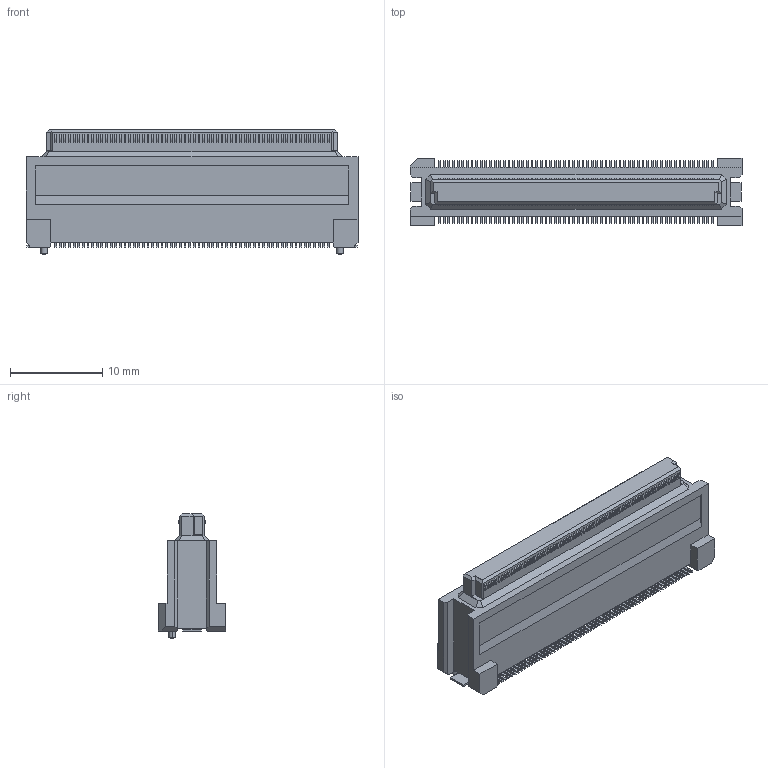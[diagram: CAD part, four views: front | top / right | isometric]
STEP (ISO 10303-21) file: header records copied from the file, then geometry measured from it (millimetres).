
FILE_DESCRIPTION(('Creo Elements/Direct Modeling STEP Export'),'2;1');
FILE_NAME('DY11-120FS-4.stp','2017-11-27T16:30:18',(''),(''),'Creo Elements/Direct Modeling STEP processor for AP214 (Solid Model)','Creo Elements/Direct Modeling 19.0F 14-Feb-2017 (C) Parametric Technology GmbH','');
FILE_SCHEMA(('AUTOMOTIVE_DESIGN { 1 0 10303 214 1 1 1 1 }'));
Length unit declared in the file: millimetre
Products named in the file (2): DY11-120FS-4
Assembly tree (1 placements, depth 2):
  DY11-120FS-4
    DY11-120FS-4
Bounding box: 35.9 x 7.3 x 13.5 mm (x, y, z)
Volume: 1841.1 mm3; surface area: 1643.5 mm2
Topology: 1 solids, 1 shells, 1720 faces, 4733 edges, 3142 vertices
Faces by surface type: plane 1218, cylinder 490, bspline 8, cone 4
Entity records: 54488 total; most frequent: CARTESIAN_POINT 10661, ORIENTED_EDGE 9466, DIRECTION 8633, EDGE_CURVE 4733, VECTOR 3725, LINE 3725, VERTEX_POINT 3142, AXIS2_PLACEMENT_3D 2454
